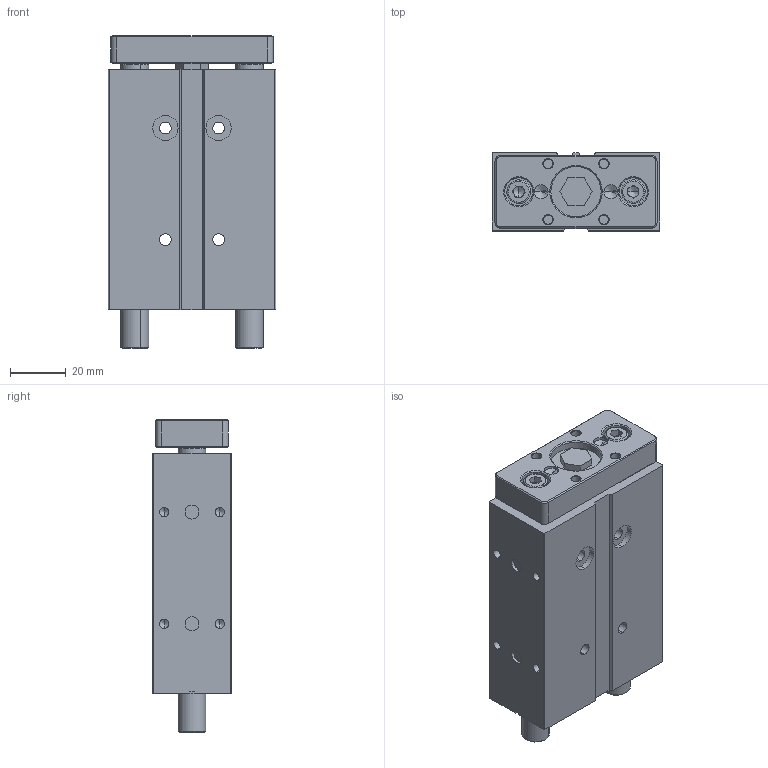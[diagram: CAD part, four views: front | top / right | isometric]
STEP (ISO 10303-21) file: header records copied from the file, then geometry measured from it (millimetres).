
FILE_DESCRIPTION (( 'STEP AP214' ), '1' );
FILE_NAME ('WGC-B-012-0050 (3D).STEP', '2018-10-23T15:29:32', ( 'Hidtek' ), ( '' ), 'SwSTEP 2.0', 'SolidWorks 2016', '' );
FILE_SCHEMA (( 'AUTOMOTIVE_DESIGN' ));
Length unit declared in the file: millimetre
Products named in the file (3): WGC-B-012-0050 (3D); Group1^WGC-B-012-0050 (3D); Group2^WGC-B-012-0050 (3D)
Assembly tree (2 placements, depth 2):
  WGC-B-012-0050 (3D)
    Group1^WGC-B-012-0050 (3D)
    Group2^WGC-B-012-0050 (3D)
Bounding box: 60 x 28 x 112 mm (x, y, z)
Volume: 145793.5 mm3; surface area: 47468.7 mm2
Topology: 11 solids, 11 shells, 622 faces, 1570 edges, 997 vertices
Faces by surface type: plane 298, cylinder 155, bspline 91, cone 78
Entity records: 25671 total; most frequent: CARTESIAN_POINT 9011, ORIENTED_EDGE 3080, DIRECTION 2756, EDGE_CURVE 1540, VERTEX_POINT 997, VECTOR 960, LINE 960, AXIS2_PLACEMENT_3D 898
